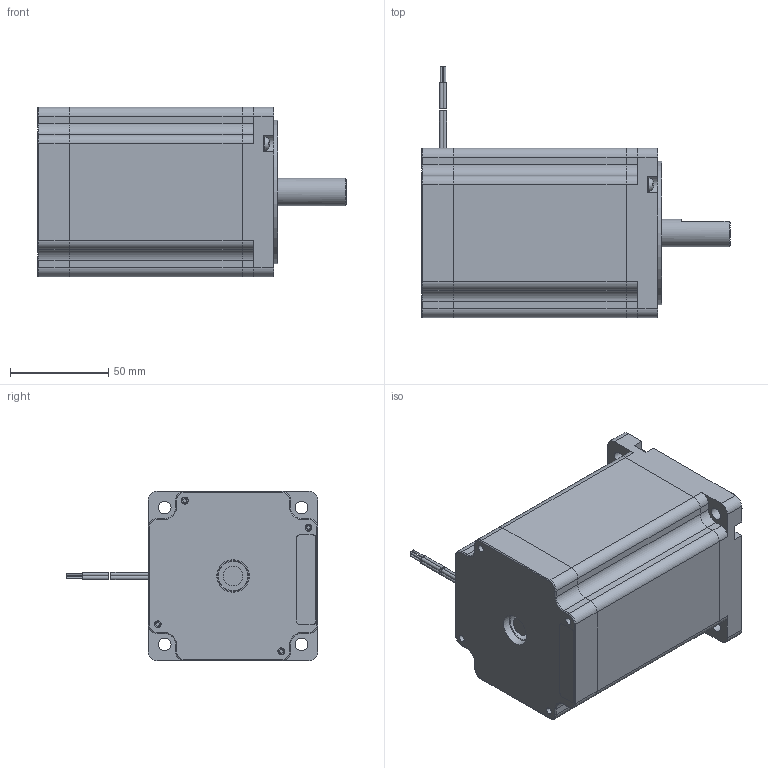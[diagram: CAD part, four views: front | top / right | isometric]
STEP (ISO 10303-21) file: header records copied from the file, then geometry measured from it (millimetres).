
FILE_DESCRIPTION((''),'1');
FILE_NAME('C:/Users/mulloa/Desktop/M-3447-6.3S.stp', '2019-04-02T16:03:49',(''), (''), 'KCM Version 1.1.0.0', 'KeyCreator', '');
FILE_SCHEMA(('AUTOMOTIVE_DESIGN'));
Length unit declared in the file: inch
Bounding box: 156.95 x 127.89 x 86.11 mm (x, y, z)
Volume: 814448.5 mm3; surface area: 156802.3 mm2
Topology: 40 solids, 40 shells, 434 faces, 1010 edges, 711 vertices
Faces by surface type: plane 206, cylinder 147, cone 43, torus 27, extrusion 6, bspline 5
Full cylindrical faces by diameter (mm): 1.016 x4, 1.778 x9, 1.829 x8, 3.429 x4, 4.496 x8, 6.374 x1, 6.502 x4, 6.731 x4, 10 x1, 14 x1, 15 x2, 16.51 x2, 17.78 x1, 35 x4, 50.8 x1, 52.197 x1, 52.3 x2, 52.324 x1, 56.21 x1, 59.004 x1, 73 x1, 76.276 x1, 77.8 x1
Entity records: 13232 total; most frequent: CARTESIAN_POINT 2486, DIRECTION 2259, ORIENTED_EDGE 1948, EDGE_CURVE 974, AXIS2_PLACEMENT_3D 893, VERTEX_POINT 639, EDGE_LOOP 493, VECTOR 473
